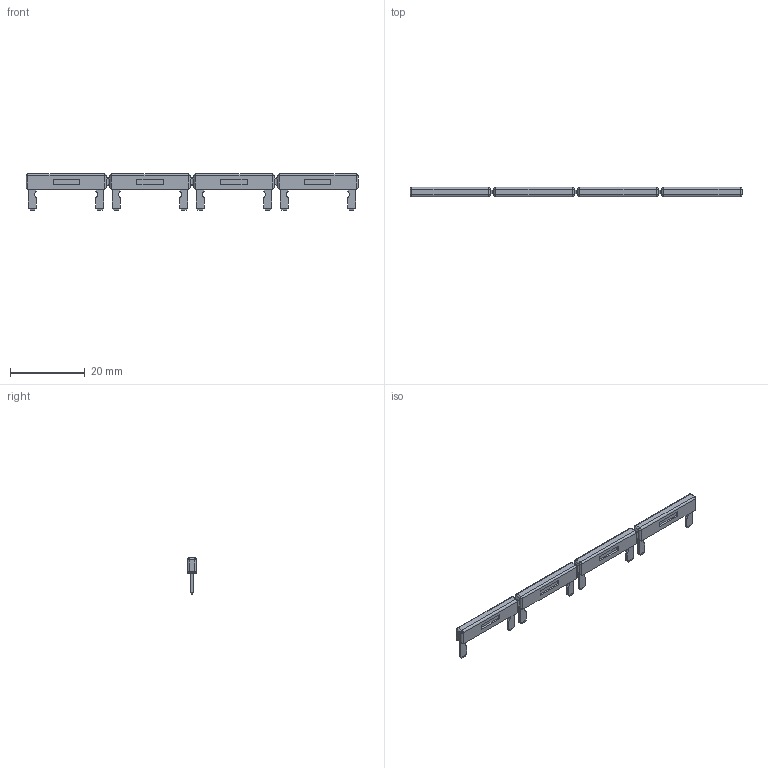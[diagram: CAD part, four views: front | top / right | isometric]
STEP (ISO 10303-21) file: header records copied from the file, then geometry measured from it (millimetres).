
FILE_DESCRIPTION (( 'STEP AP214' ), '1' );
FILE_NAME ('S7-BB.STEP', '2024-04-23T05:19:50', ( '' ), ( '' ), 'SwSTEP 2.0', 'SolidWorks 2022', '' );
FILE_SCHEMA (( 'AUTOMOTIVE_DESIGN' ));
Length unit declared in the file: millimetre
Products named in the file (1): S7-BB
Bounding box: 89 x 2.5 x 9.7 mm (x, y, z)
Volume: 908.8 mm3; surface area: 1470.8 mm2
Topology: 1 solids, 1 shells, 230 faces, 544 edges, 308 vertices
Faces by surface type: plane 170, cylinder 44, bspline 16
Entity records: 7470 total; most frequent: CARTESIAN_POINT 1355, ORIENTED_EDGE 1056, DIRECTION 1014, EDGE_CURVE 528, LINE 440, VECTOR 440, VERTEX_POINT 308, AXIS2_PLACEMENT_3D 287
